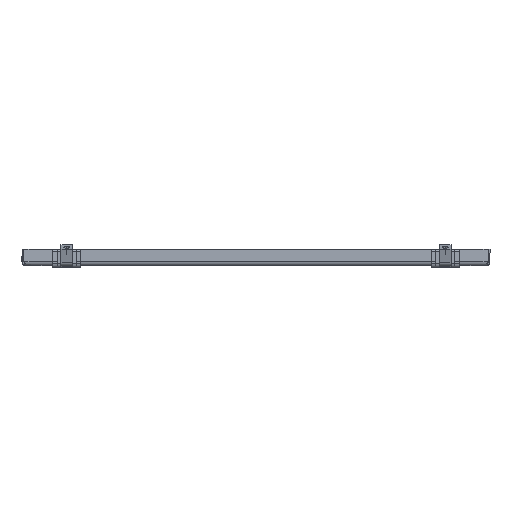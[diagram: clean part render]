
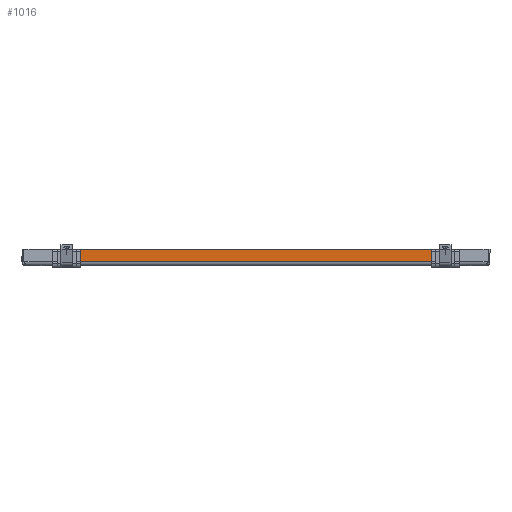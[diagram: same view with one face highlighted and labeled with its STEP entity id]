
A CAD part, front view. The second image highlights one B-rep face of the part: STEP entity #1016.
In plain terms, the highlighted planar face has unit normal (0, -1, 0).
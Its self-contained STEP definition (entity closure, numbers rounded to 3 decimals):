
#57 = VECTOR ( 'NONE', #4067, 1000. ) ;
#66 = EDGE_CURVE ( 'NONE', #542, #1124, #1878, .T. ) ;
#99 = VECTOR ( 'NONE', #2594, 1000. ) ;
#170 = EDGE_CURVE ( 'NONE', #2686, #1124, #564, .T. ) ;
#390 = PLANE ( 'NONE',  #4280 ) ;
#542 = VERTEX_POINT ( 'NONE', #2160 ) ;
#564 = LINE ( 'NONE', #3901, #99 ) ;
#595 = ORIENTED_EDGE ( 'NONE', *, *, #5453, .F. ) ;
#966 = DIRECTION ( 'NONE',  ( -1., 0., 0. ) ) ;
#1016 = ADVANCED_FACE ( 'NONE', ( #3135 ), #390, .F. ) ;
#1124 = VERTEX_POINT ( 'NONE', #5086 ) ;
#1202 = CARTESIAN_POINT ( 'NONE',  ( 0., -393.5, 0. ) ) ;
#1214 = DIRECTION ( 'NONE',  ( 0., 0., 1. ) ) ;
#1572 = EDGE_LOOP ( 'NONE', ( #1695, #1720, #595, #4956 ) ) ;
#1611 = VERTEX_POINT ( 'NONE', #2335 ) ;
#1695 = ORIENTED_EDGE ( 'NONE', *, *, #170, .F. ) ;
#1720 = ORIENTED_EDGE ( 'NONE', *, *, #3463, .F. ) ;
#1779 = CARTESIAN_POINT ( 'NONE',  ( -189., -393.5, 15. ) ) ;
#1878 = LINE ( 'NONE', #3757, #4533 ) ;
#1923 = CARTESIAN_POINT ( 'NONE',  ( -189., -393.5, -26.413 ) ) ;
#2160 = CARTESIAN_POINT ( 'NONE',  ( 189., -393.5, 2. ) ) ;
#2335 = CARTESIAN_POINT ( 'NONE',  ( -189., -393.5, 2. ) ) ;
#2507 = DIRECTION ( 'NONE',  ( 0., 0., 1. ) ) ;
#2594 = DIRECTION ( 'NONE',  ( 1., 0., 0. ) ) ;
#2686 = VERTEX_POINT ( 'NONE', #1779 ) ;
#2885 = VECTOR ( 'NONE', #966, 1000. ) ;
#3135 = FACE_OUTER_BOUND ( 'NONE', #1572, .T. ) ;
#3352 = DIRECTION ( 'NONE',  ( 0., 1., 0. ) ) ;
#3463 = EDGE_CURVE ( 'NONE', #1611, #2686, #4946, .T. ) ;
#3757 = CARTESIAN_POINT ( 'NONE',  ( 189., -393.5, -26.413 ) ) ;
#3901 = CARTESIAN_POINT ( 'NONE',  ( -242., -393.5, 15. ) ) ;
#4067 = DIRECTION ( 'NONE',  ( 0., 0., 1. ) ) ;
#4280 = AXIS2_PLACEMENT_3D ( 'NONE', #1202, #3352, #2507 ) ;
#4336 = CARTESIAN_POINT ( 'NONE',  ( -242., -393.5, 2. ) ) ;
#4533 = VECTOR ( 'NONE', #1214, 1000. ) ;
#4614 = LINE ( 'NONE', #4336, #2885 ) ;
#4946 = LINE ( 'NONE', #1923, #57 ) ;
#4956 = ORIENTED_EDGE ( 'NONE', *, *, #66, .T. ) ;
#5086 = CARTESIAN_POINT ( 'NONE',  ( 189., -393.5, 15. ) ) ;
#5453 = EDGE_CURVE ( 'NONE', #542, #1611, #4614, .T. ) ;
